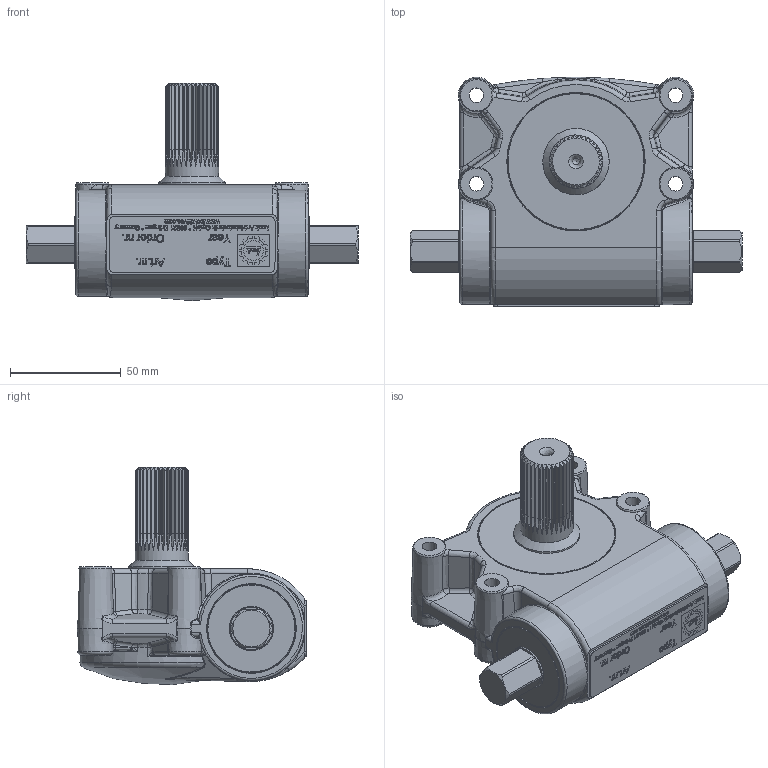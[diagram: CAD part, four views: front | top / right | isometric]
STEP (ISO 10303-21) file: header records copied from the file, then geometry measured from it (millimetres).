
FILE_DESCRIPTION(/* description */ ('STEP AP214'),/* implementation_level */ '2;1');
FILE_NAME(/* name */ 'C:\Users\nesvadba\Downloads\62173_0938_9071.stp',/* time_stamp */ '2024-05-23T15:35:46+02:00',/* author */ ('nesvadba'),/* organization */ (''),/* preprocessor_version */ 'ST-DEVELOPER v18.1',/* originating_system */ 'Autodesk Inventor 2022',/* authorisation */ '');
FILE_SCHEMA (('AUTOMOTIVE_DESIGN { 1 0 10303 214 3 1 1 }'));
Products named in the file (1): 010201423_VRE_73_3D-Modell__DE_62173.0938.9071
Bounding box: 150 x 103.71 x 98.16 mm (x, y, z)
Volume: 254054.6 mm3; surface area: 98766 mm2
Topology: 8 solids, 16 shells, 2048 faces, 5274 edges, 3365 vertices
Faces by surface type: plane 941, bspline 763, cone 148, cylinder 147, torus 42, sphere 7
Full cylindrical faces by diameter (mm): 0.1 x4, 2.5 x1, 3.15 x1, 6.6 x4, 9 x1, 20 x4, 24 x1, 27.142 x2, 27.162 x2, 30 x1, 32 x1, 34 x1, 36.5 x1, 37.5 x2, 37.52 x2, 38.48 x2, 38.5 x2, 39 x1, 40 x4, 60 x1, 62 x2, 66 x1
Entity records: 99954 total; most frequent: CARTESIAN_POINT 54147, ORIENTED_EDGE 10480, DIRECTION 6999, EDGE_CURVE 5240, VERTEX_POINT 3365, LINE 2875, VECTOR 2875, EDGE_LOOP 2219
